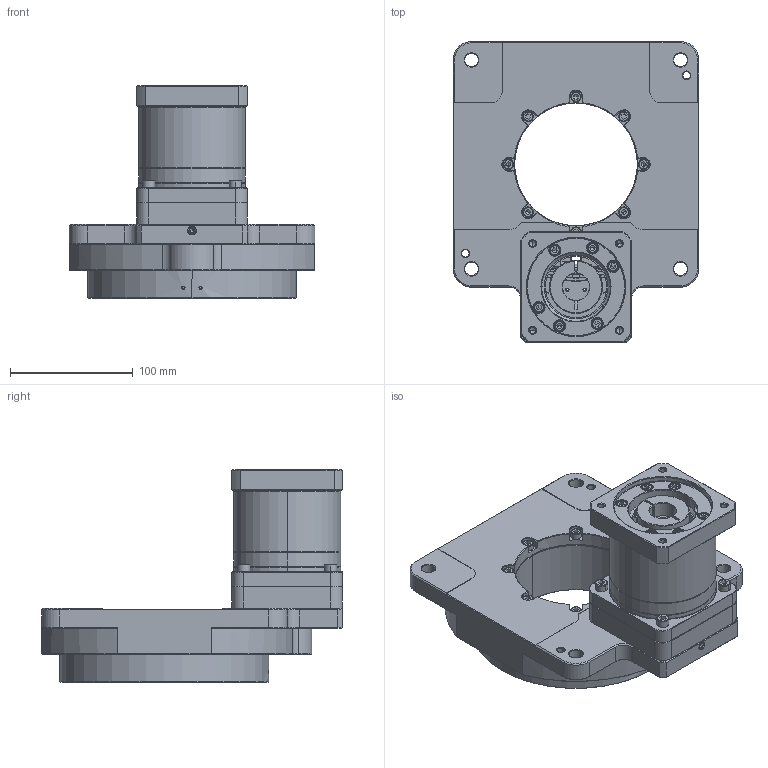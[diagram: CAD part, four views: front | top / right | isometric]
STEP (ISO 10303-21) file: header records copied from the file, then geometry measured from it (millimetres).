
FILE_DESCRIPTION (( 'STEP AP203' ), '1' );
FILE_NAME ('HRG200A.STEP', '2020-06-24T05:42:24', ( '' ), ( '' ), 'SwSTEP 2.0', 'SolidWorks 2012', '' );
FILE_SCHEMA (( 'CONFIG_CONTROL_DESIGN' ));
Length unit declared in the file: millimetre
Products named in the file (1): HRG200A
Bounding box: 200 x 245 x 172.9 mm (x, y, z)
Surface area: 227788.3 mm2 (no closed solid volume)
Topology: 0 solids, 53 shells, 815 faces, 2521 edges, 1688 vertices
Faces by surface type: plane 359, cone 201, cylinder 185, torus 56, bspline 14
Entity records: 31578 total; most frequent: CARTESIAN_POINT 9221, DIRECTION 4796, ORIENTED_EDGE 4145, EDGE_CURVE 2495, AXIS2_PLACEMENT_3D 1711, VERTEX_POINT 1688, LINE 1374, VECTOR 1374
